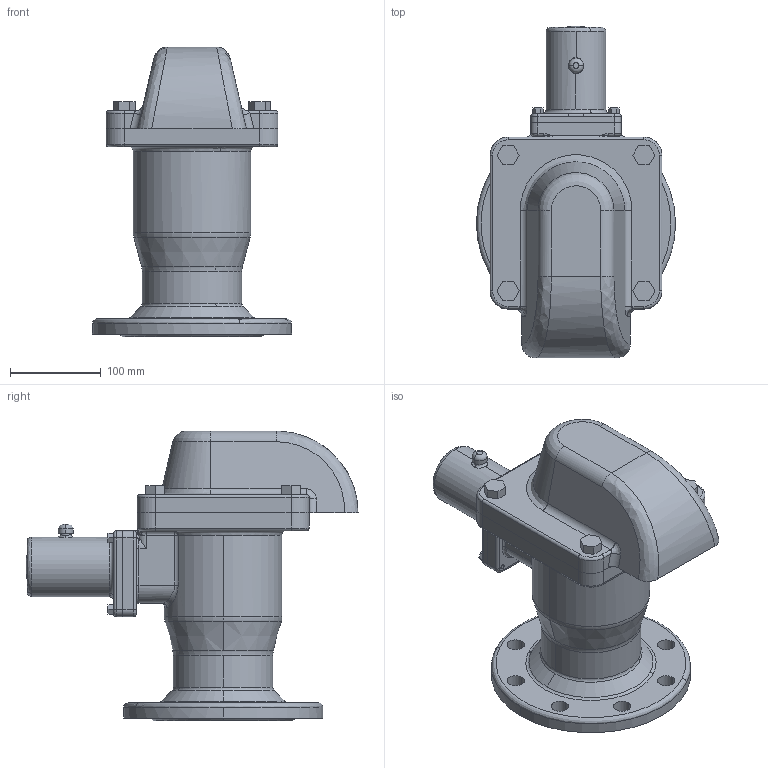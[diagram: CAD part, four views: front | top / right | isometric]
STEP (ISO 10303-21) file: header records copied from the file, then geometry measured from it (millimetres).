
FILE_DESCRIPTION (( 'STEP AP203' ), '1' );
FILE_NAME ('0.STEP', '2017-05-28T03:43:01', ( 'User' ), ( 'shendu' ), 'SwSTEP 2.0', 'SolidWorks 2015', '' );
FILE_SCHEMA (( 'CONFIG_CONTROL_DESIGN' ));
Length unit declared in the file: millimetre
Products named in the file (1): 0
Bounding box: 220 x 366.86 x 320 mm (x, y, z)
Surface area: 758561.6 mm2 (no closed solid volume)
Topology: 0 solids, 17 shells, 457 faces, 1115 edges, 691 vertices
Faces by surface type: cylinder 180, plane 135, bspline 94, cone 30, torus 18
Entity records: 33037 total; most frequent: CARTESIAN_POINT 22740, ORIENTED_EDGE 2200, DIRECTION 1986, EDGE_CURVE 1101, AXIS2_PLACEMENT_3D 753, VERTEX_POINT 691, EDGE_LOOP 533, VECTOR 480
